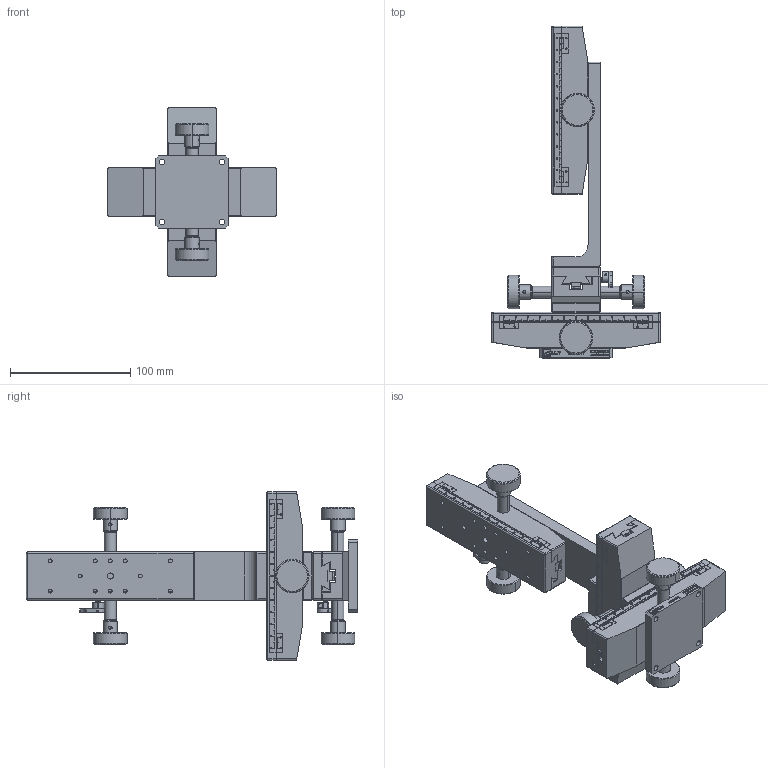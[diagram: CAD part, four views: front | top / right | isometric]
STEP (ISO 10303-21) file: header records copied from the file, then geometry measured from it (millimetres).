
FILE_DESCRIPTION (( 'STEP AP203' ), '1' );
FILE_NAME ('MCT-41W-(«¬¿ý).STEP', '2013-10-05T03:54:04', ( '' ), ( '' ), 'SwSTEP 2.0', 'SolidWorks 2013', '' );
FILE_SCHEMA (( 'CONFIG_CONTROL_DESIGN' ));
Length unit declared in the file: millimetre
Products named in the file (7): Group4^MCT-41W-(型錄); Group2^MCT-41W-(型錄); Group5^MCT-41W-(型錄); Group1^MCT-41W-(型錄); Group6^MCT-41W-(型錄); MCT-41W-(型錄); Group3^MCT-41W-(型錄)
Assembly tree (6 placements, depth 2):
  MCT-41W-(型錄)
    Group3^MCT-41W-(型錄)
    Group4^MCT-41W-(型錄)
    Group2^MCT-41W-(型錄)
    Group5^MCT-41W-(型錄)
    Group1^MCT-41W-(型錄)
    Group6^MCT-41W-(型錄)
Bounding box: 140 x 276 x 140 mm (x, y, z)
Volume: 642120.8 mm3; surface area: 171755.8 mm2
Topology: 6 solids, 6 shells, 4318 faces, 11776 edges, 7693 vertices
Faces by surface type: plane 3009, bspline 747, cylinder 312, cone 192, torus 34, sphere 24
Entity records: 187232 total; most frequent: CARTESIAN_POINT 82231, ORIENTED_EDGE 23486, DIRECTION 18215, EDGE_CURVE 11743, VECTOR 9011, LINE 9011, VERTEX_POINT 7692, EDGE_LOOP 4607
